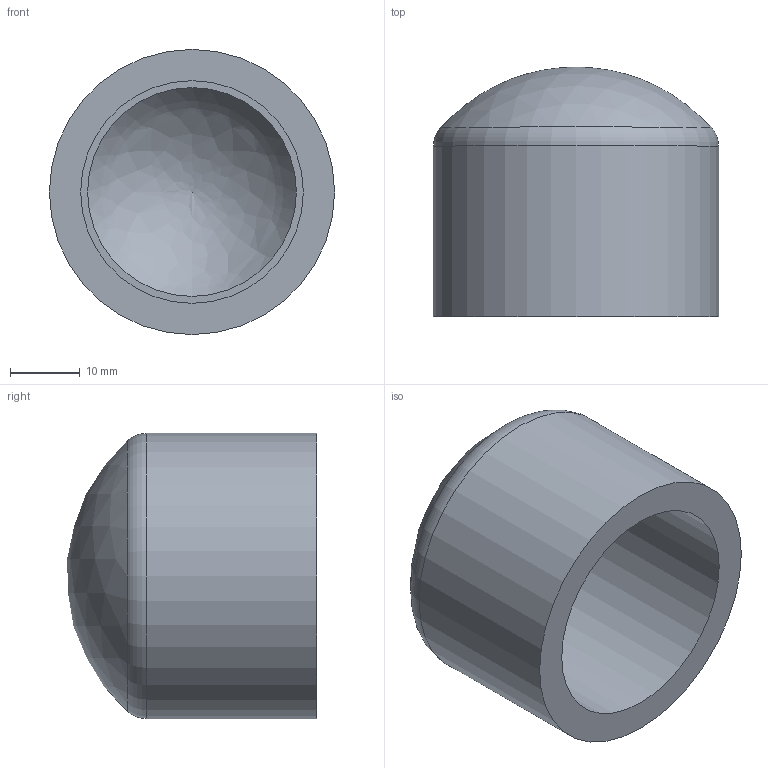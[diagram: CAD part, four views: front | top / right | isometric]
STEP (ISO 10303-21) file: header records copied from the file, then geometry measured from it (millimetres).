
FILE_DESCRIPTION(/* description */ ('PVC calotta incollaggio metrico'),/* implementation_level */ '2;1');
FILE_NAME(/* name */ 'C:\Users\POLYPIPE\Desktop\DATASET INVENTOR\LIBRERIA EFFAST\RACCORDI 3DxWEB\RDR\3D_RDRCAD\3D_RDRCAD0320.stp',/* time_stamp */ '2018-01-19T14:06:03+01:00',/* author */ ('POLYPIPE'),/* organization */ ('Polypipe Italia'),/* preprocessor_version */ 'ST-DEVELOPER v16.1',/* originating_system */ 'Autodesk Inventor 2016',/* authorisation */ '');
FILE_SCHEMA (('CONFIG_CONTROL_DESIGN'));
Length unit declared in the file: millimetre
Products named in the file (1): 3D_RDRCAD
Bounding box: 41 x 35.89 x 41 mm (x, y, z)
Volume: 19885.1 mm3; surface area: 8794.7 mm2
Topology: 1 solids, 1 shells, 7 faces, 12 edges, 8 vertices
Faces by surface type: cylinder 2, plane 2, torus 1, sphere 1, bspline 1
Full cylindrical faces by diameter (mm): 32 x1, 41 x1
Entity records: 198 total; most frequent: CARTESIAN_POINT 52, DIRECTION 28, ORIENTED_EDGE 16, AXIS2_PLACEMENT_3D 14, EDGE_LOOP 12, VERTEX_POINT 8, EDGE_CURVE 8, FACE_OUTER_BOUND 7
